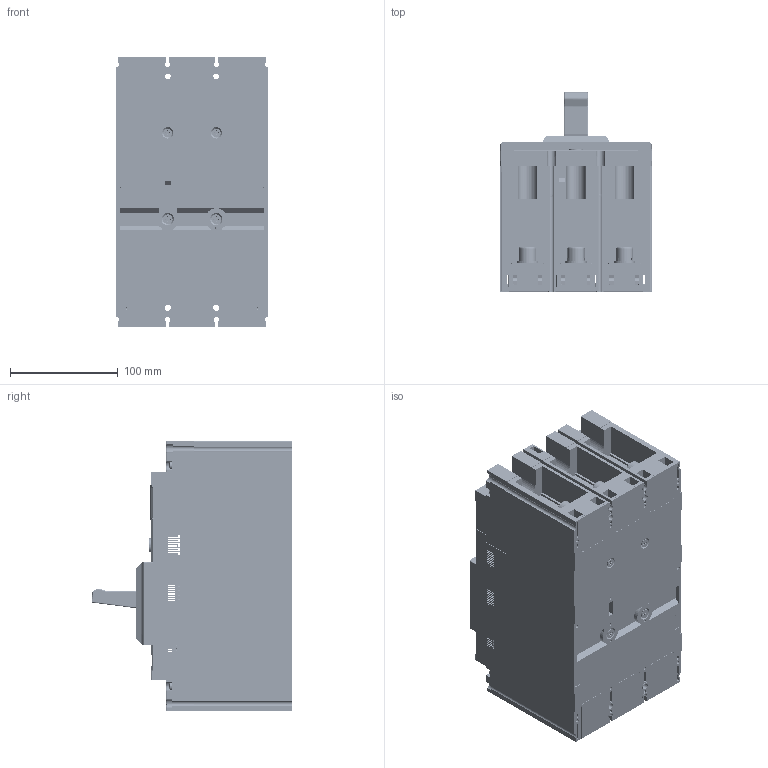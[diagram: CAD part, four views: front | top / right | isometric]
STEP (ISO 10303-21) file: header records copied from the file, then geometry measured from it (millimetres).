
FILE_DESCRIPTION (( 'STEP AP214' ), '1' );
FILE_NAME ('MNX400U_R_3P ﾈﾇﾌ.STEP', '2024-12-04T11:06:55', ( '' ), ( '' ), 'SwSTEP 2.0', 'SolidWorks 2022', '' );
FILE_SCHEMA (( 'AUTOMOTIVE_DESIGN' ));
Length unit declared in the file: millimetre
Products named in the file (1): MNX400U_R_3P ИЗМ
Bounding box: 140 x 185.46 x 250.62 mm (x, y, z)
Volume: 1357715.1 mm3; surface area: 1001509.8 mm2
Topology: 74 solids, 454 shells, 19070 faces, 49744 edges, 31595 vertices
Faces by surface type: plane 10146, cylinder 5880, bspline 1196, torus 1094, cone 564, sphere 190
Entity records: 856937 total; most frequent: CARTESIAN_POINT 180648, ORIENTED_EDGE 98854, DIRECTION 95057, EDGE_CURVE 49427, LINE 32273, VECTOR 32273, VERTEX_POINT 31592, AXIS2_PLACEMENT_3D 31392
